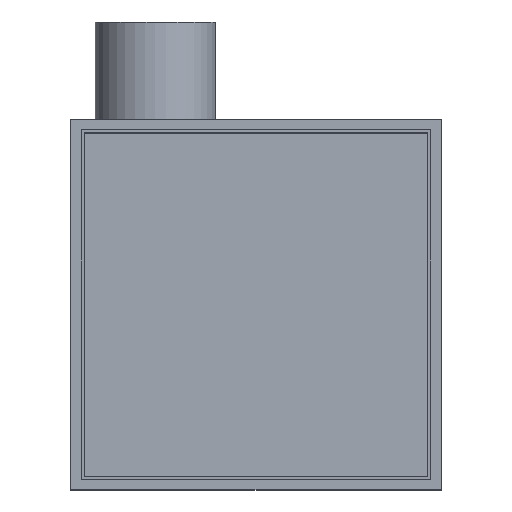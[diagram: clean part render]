
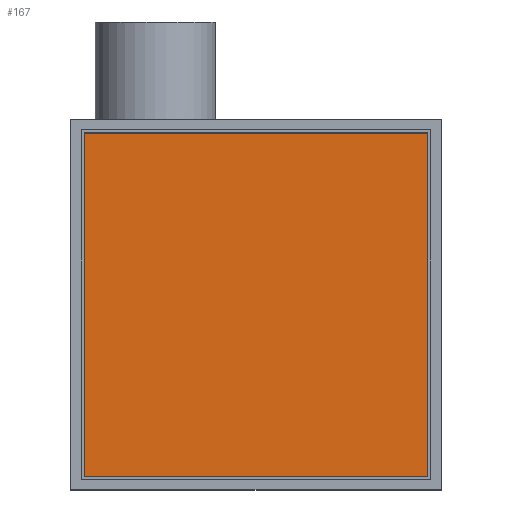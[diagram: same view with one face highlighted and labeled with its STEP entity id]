
A CAD part, top view. The second image highlights one B-rep face of the part: STEP entity #167.
In plain terms, the highlighted planar face has unit normal (0, 0, 1).
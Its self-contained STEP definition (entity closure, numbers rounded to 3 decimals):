
#6 = ORIENTED_EDGE ( 'NONE', *, *, #579, .T. ) ;
#29 = FACE_OUTER_BOUND ( 'NONE', #136, .T. ) ;
#59 = DIRECTION ( 'NONE',  ( 0., 0., 1. ) ) ;
#80 = DIRECTION ( 'NONE',  ( 0., -1., 0. ) ) ;
#89 = VERTEX_POINT ( 'NONE', #779 ) ;
#115 = LINE ( 'NONE', #686, #423 ) ;
#136 = EDGE_LOOP ( 'NONE', ( #397, #529, #6, #505 ) ) ;
#142 = VECTOR ( 'NONE', #80, 1000. ) ;
#167 = ADVANCED_FACE ( 'NONE', ( #29 ), #359, .T. ) ;
#180 = DIRECTION ( 'NONE',  ( 1., 0., 0. ) ) ;
#202 = AXIS2_PLACEMENT_3D ( 'NONE', #709, #59, #180 ) ;
#231 = CARTESIAN_POINT ( 'NONE',  ( 112.9, -112.9, -86. ) ) ;
#235 = LINE ( 'NONE', #578, #735 ) ;
#242 = CARTESIAN_POINT ( 'NONE',  ( -112.9, -112.9, -86. ) ) ;
#278 = DIRECTION ( 'NONE',  ( -1., 0., 0. ) ) ;
#302 = VECTOR ( 'NONE', #398, 1000. ) ;
#343 = CARTESIAN_POINT ( 'NONE',  ( 112.9, 112.9, -86. ) ) ;
#359 = PLANE ( 'NONE',  #202 ) ;
#370 = EDGE_CURVE ( 'NONE', #767, #89, #661, .T. ) ;
#397 = ORIENTED_EDGE ( 'NONE', *, *, #684, .T. ) ;
#398 = DIRECTION ( 'NONE',  ( 0., 1., 0. ) ) ;
#423 = VECTOR ( 'NONE', #621, 1000. ) ;
#505 = ORIENTED_EDGE ( 'NONE', *, *, #696, .T. ) ;
#529 = ORIENTED_EDGE ( 'NONE', *, *, #370, .T. ) ;
#575 = VERTEX_POINT ( 'NONE', #758 ) ;
#578 = CARTESIAN_POINT ( 'NONE',  ( -112.9, 112.9, -86. ) ) ;
#579 = EDGE_CURVE ( 'NONE', #89, #575, #115, .T. ) ;
#621 = DIRECTION ( 'NONE',  ( 1., 0., 0. ) ) ;
#661 = LINE ( 'NONE', #242, #142 ) ;
#684 = EDGE_CURVE ( 'NONE', #692, #767, #235, .T. ) ;
#686 = CARTESIAN_POINT ( 'NONE',  ( -112.9, -112.9, -86. ) ) ;
#692 = VERTEX_POINT ( 'NONE', #343 ) ;
#696 = EDGE_CURVE ( 'NONE', #575, #692, #752, .T. ) ;
#698 = CARTESIAN_POINT ( 'NONE',  ( -112.9, 112.9, -86. ) ) ;
#709 = CARTESIAN_POINT ( 'NONE',  ( 0., 0., -86. ) ) ;
#735 = VECTOR ( 'NONE', #278, 1000. ) ;
#752 = LINE ( 'NONE', #231, #302 ) ;
#758 = CARTESIAN_POINT ( 'NONE',  ( 112.9, -112.9, -86. ) ) ;
#767 = VERTEX_POINT ( 'NONE', #698 ) ;
#779 = CARTESIAN_POINT ( 'NONE',  ( -112.9, -112.9, -86. ) ) ;
